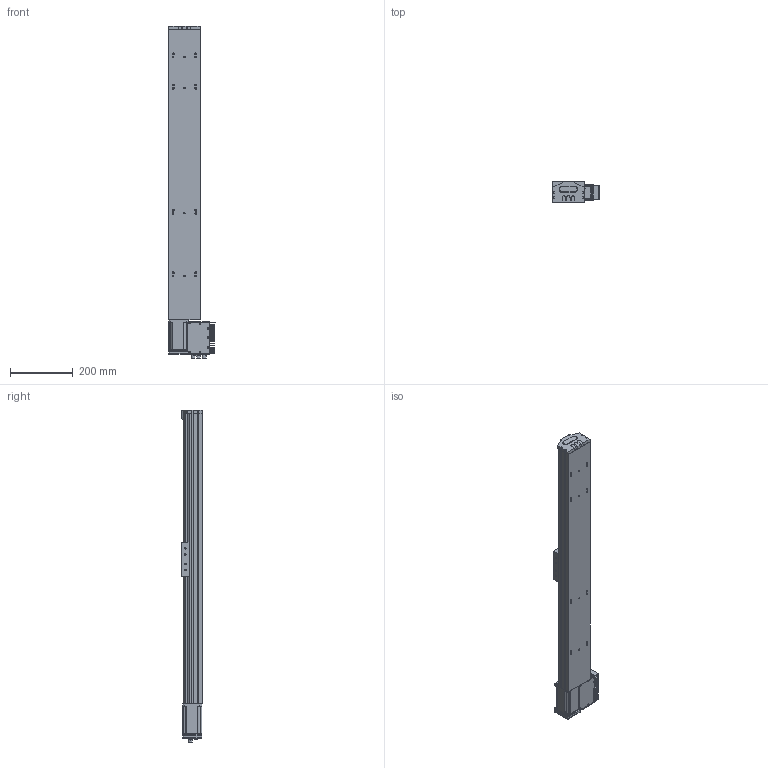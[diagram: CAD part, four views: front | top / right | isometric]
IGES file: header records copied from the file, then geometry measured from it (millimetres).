
Start section: SolidWorks IGES file using analytic representation for surfaces
Global section: file name: C:\Documents and Settings\1EDPI\Mes documents\yanize\S 10 TSH MD\S 10 TSH MD S700.IGS; native system: SolidWorks 2010; preprocessor: SolidWorks 2010; author: 1EDPI; date: 120829.141935; units: millimetre
Bounding box: 148.26 x 66.75 x 1061.6 mm (x, y, z)
Surface area: 682517.3 mm2 (no closed solid volume)
Topology: 0 solids, 0 shells, 1726 faces, 23592 edges, 23564 vertices
Faces by surface type: revolution 924, bspline 802
